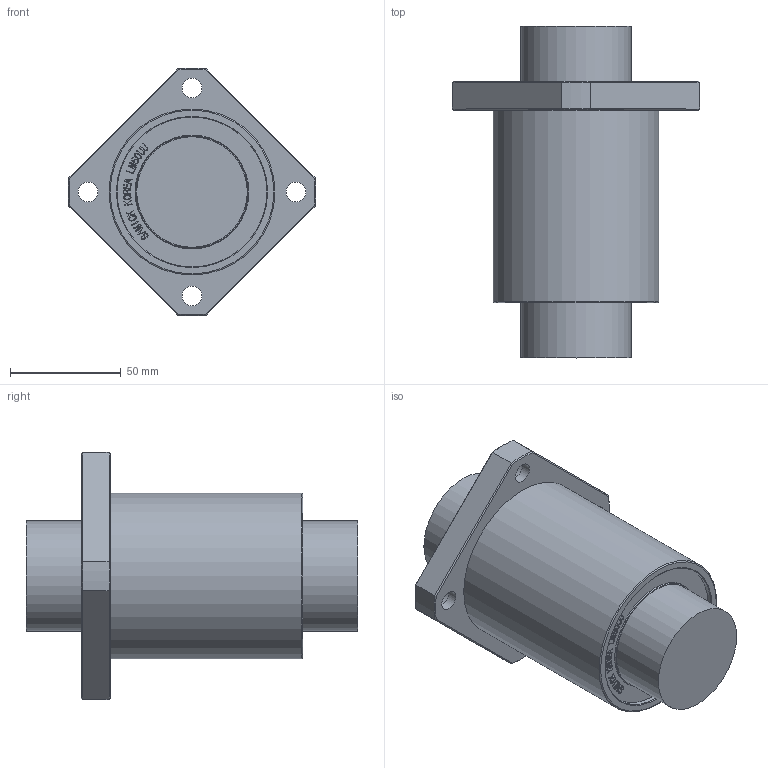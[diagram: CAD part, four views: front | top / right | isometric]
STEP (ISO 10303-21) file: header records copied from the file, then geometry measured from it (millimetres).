
FILE_DESCRIPTION(/* description */ (''),/* implementation_level */ '2;1');
FILE_NAME(/* name */ 'W:\(01) 2024년 홈페이지 CAD파일 최신화\LMEK\IPT\LMEK50UU.stp',/* time_stamp */ '2025-01-25T10:46:13+09:00',/* author */ ('서우현'),/* organization */ (''),/* preprocessor_version */ 'ST-DEVELOPER v17.2',/* originating_system */ 'Autodesk Inventor 2019',/* authorisation */ '');
FILE_SCHEMA (('AUTOMOTIVE_DESIGN { 1 0 10303 214 3 1 1 }'));
Length unit declared in the file: millimetre
Products named in the file (1): LM5
Bounding box: 111.91 x 150 x 111.91 mm (x, y, z)
Volume: 567132.3 mm3; surface area: 50864.8 mm2
Topology: 1 solids, 1 shells, 872 faces, 2450 edges, 1636 vertices
Faces by surface type: bspline 600, plane 240, cylinder 18, cone 12, torus 2
Full cylindrical faces by diameter (mm): 9 x4, 14 x4, 50 x2, 67.7 x2, 75 x2
Entity records: 29912 total; most frequent: CARTESIAN_POINT 11051, ORIENTED_EDGE 4900, EDGE_CURVE 2450, DIRECTION 1862, VERTEX_POINT 1636, B_SPLINE_CURVE_WITH_KNOTS 1200, LINE 1152, VECTOR 1152
